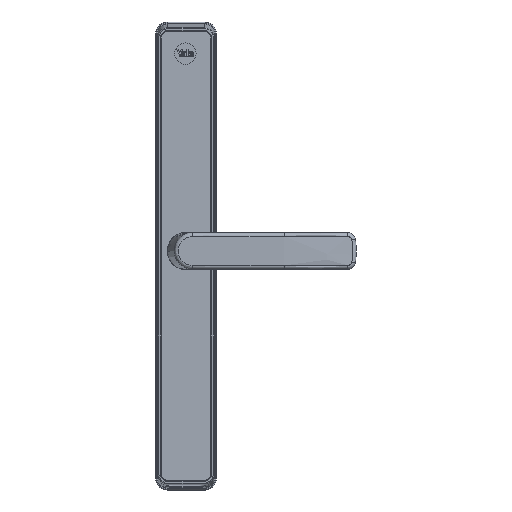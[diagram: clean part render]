
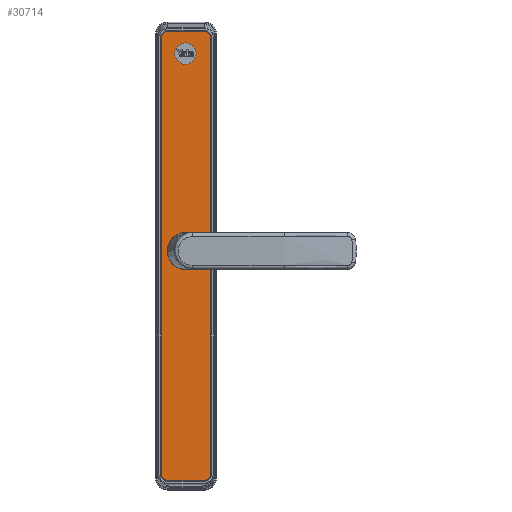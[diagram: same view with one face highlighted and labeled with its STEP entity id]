
A CAD part, top view. The second image highlights one B-rep face of the part: STEP entity #30714.
In plain terms, the highlighted planar face has unit normal (0, 0, 1).
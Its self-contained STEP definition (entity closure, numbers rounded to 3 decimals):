
#946 = EDGE_CURVE ( 'NONE', #20854, #52695, #42555, .T. ) ;
#1744 = DIRECTION ( 'NONE',  ( 0., 0., 1. ) ) ;
#2049 = VERTEX_POINT ( 'NONE', #2732 ) ;
#2522 = AXIS2_PLACEMENT_3D ( 'NONE', #57378, #15472, #98074 ) ;
#2635 = DIRECTION ( 'NONE',  ( -1., 0., 0. ) ) ;
#2732 = CARTESIAN_POINT ( 'NONE',  ( -6.872, 120.999, 0. ) ) ;
#3849 = CARTESIAN_POINT ( 'NONE',  ( -15.1, 130.5, 0. ) ) ;
#7135 = EDGE_CURVE ( 'NONE', #18843, #20854, #107730, .T. ) ;
#7547 = EDGE_LOOP ( 'NONE', ( #119885, #43379 ) ) ;
#9781 = CIRCLE ( 'NONE', #116670, 6.5 ) ;
#13020 = EDGE_CURVE ( 'NONE', #44289, #18843, #54790, .T. ) ;
#13402 = DIRECTION ( 'NONE',  ( -1., 0., 0. ) ) ;
#13422 = AXIS2_PLACEMENT_3D ( 'NONE', #81331, #21032, #120776 ) ;
#15363 = DIRECTION ( 'NONE',  ( 0., 0., 1. ) ) ;
#15472 = DIRECTION ( 'NONE',  ( 0., 0., 1. ) ) ;
#16186 = CARTESIAN_POINT ( 'NONE',  ( 0., 0., 0. ) ) ;
#18259 = CIRCLE ( 'NONE', #85263, 4. ) ;
#18843 = VERTEX_POINT ( 'NONE', #66316 ) ;
#19118 = CARTESIAN_POINT ( 'NONE',  ( -0.372, 120.999, 0. ) ) ;
#19215 = DIRECTION ( 'NONE',  ( 0., 0., 1. ) ) ;
#20854 = VERTEX_POINT ( 'NONE', #103736 ) ;
#21032 = DIRECTION ( 'NONE',  ( 0., 0., 1. ) ) ;
#22229 = AXIS2_PLACEMENT_3D ( 'NONE', #16186, #116559, #56158 ) ;
#22760 = VECTOR ( 'NONE', #51599, 1000. ) ;
#24644 = CARTESIAN_POINT ( 'NONE',  ( 11.1, 134.5, 0. ) ) ;
#24675 = DIRECTION ( 'NONE',  ( -1., 0., 0. ) ) ;
#29217 = EDGE_LOOP ( 'NONE', ( #93827, #39236, #114328, #82794, #43781, #128649, #33826, #58793 ) ) ;
#30714 = ADVANCED_FACE ( 'NONE', ( #107259, #65282, #125744 ), #75755, .T. ) ;
#31379 = EDGE_CURVE ( 'NONE', #111270, #124733, #75630, .T. ) ;
#32737 = DIRECTION ( 'NONE',  ( 0., -1., 0. ) ) ;
#33807 = EDGE_CURVE ( 'NONE', #82691, #44289, #18259, .T. ) ;
#33826 = ORIENTED_EDGE ( 'NONE', *, *, #113496, .T. ) ;
#35892 = EDGE_CURVE ( 'NONE', #2049, #111672, #85096, .T. ) ;
#39236 = ORIENTED_EDGE ( 'NONE', *, *, #13020, .T. ) ;
#42555 = LINE ( 'NONE', #3849, #84462 ) ;
#43379 = ORIENTED_EDGE ( 'NONE', *, *, #31379, .F. ) ;
#43781 = ORIENTED_EDGE ( 'NONE', *, *, #55845, .T. ) ;
#43947 = DIRECTION ( 'NONE',  ( 0., 0., 1. ) ) ;
#44289 = VERTEX_POINT ( 'NONE', #24644 ) ;
#44511 = VERTEX_POINT ( 'NONE', #62319 ) ;
#49314 = DIRECTION ( 'NONE',  ( 0., 0., 1. ) ) ;
#51599 = DIRECTION ( 'NONE',  ( 0., 1., 0. ) ) ;
#52695 = VERTEX_POINT ( 'NONE', #89533 ) ;
#52864 = EDGE_CURVE ( 'NONE', #88832, #107219, #85519, .T. ) ;
#54299 = AXIS2_PLACEMENT_3D ( 'NONE', #115443, #43947, #2635 ) ;
#54790 = LINE ( 'NONE', #84947, #66325 ) ;
#55548 = EDGE_CURVE ( 'NONE', #44511, #82691, #120554, .T. ) ;
#55845 = EDGE_CURVE ( 'NONE', #52695, #88832, #98330, .T. ) ;
#56158 = DIRECTION ( 'NONE',  ( 1., 0., 0. ) ) ;
#57378 = CARTESIAN_POINT ( 'NONE',  ( 11.1, 130.5, 0. ) ) ;
#58793 = ORIENTED_EDGE ( 'NONE', *, *, #55548, .T. ) ;
#62319 = CARTESIAN_POINT ( 'NONE',  ( 15.1, -136.5, 0. ) ) ;
#63309 = CARTESIAN_POINT ( 'NONE',  ( -0.372, 120.999, 0. ) ) ;
#65282 = FACE_BOUND ( 'NONE', #7547, .T. ) ;
#65397 = CARTESIAN_POINT ( 'NONE',  ( 11.1, -140.5, 0. ) ) ;
#66316 = CARTESIAN_POINT ( 'NONE',  ( -11.1, 134.5, 0. ) ) ;
#66325 = VECTOR ( 'NONE', #24675, 1000. ) ;
#67743 = CARTESIAN_POINT ( 'NONE',  ( 11.1, 130.5, 0. ) ) ;
#68343 = CARTESIAN_POINT ( 'NONE',  ( 0., 0., 0. ) ) ;
#68750 = ORIENTED_EDGE ( 'NONE', *, *, #35892, .F. ) ;
#69623 = EDGE_CURVE ( 'NONE', #124733, #111270, #124936, .T. ) ;
#74592 = AXIS2_PLACEMENT_3D ( 'NONE', #63309, #1744, #103351 ) ;
#75014 = CARTESIAN_POINT ( 'NONE',  ( -11.1, -140.5, 0. ) ) ;
#75544 = AXIS2_PLACEMENT_3D ( 'NONE', #68343, #49314, #90597 ) ;
#75630 = CIRCLE ( 'NONE', #75544, 11.5 ) ;
#75755 = PLANE ( 'NONE',  #2522 ) ;
#77421 = CIRCLE ( 'NONE', #54299, 4. ) ;
#77604 = DIRECTION ( 'NONE',  ( 1., 0., 0. ) ) ;
#81331 = CARTESIAN_POINT ( 'NONE',  ( -11.1, 130.5, 0. ) ) ;
#82082 = EDGE_CURVE ( 'NONE', #111672, #2049, #9781, .T. ) ;
#82691 = VERTEX_POINT ( 'NONE', #125848 ) ;
#82794 = ORIENTED_EDGE ( 'NONE', *, *, #946, .T. ) ;
#84462 = VECTOR ( 'NONE', #32737, 1000. ) ;
#84947 = CARTESIAN_POINT ( 'NONE',  ( 11.1, 134.5, 0. ) ) ;
#85096 = CIRCLE ( 'NONE', #74592, 6.5 ) ;
#85263 = AXIS2_PLACEMENT_3D ( 'NONE', #67743, #19215, #126911 ) ;
#85519 = LINE ( 'NONE', #75014, #89609 ) ;
#88832 = VERTEX_POINT ( 'NONE', #100599 ) ;
#89533 = CARTESIAN_POINT ( 'NONE',  ( -15.1, -136.5, 0. ) ) ;
#89609 = VECTOR ( 'NONE', #77604, 1000. ) ;
#90597 = DIRECTION ( 'NONE',  ( 1., 0., 0. ) ) ;
#92097 = CARTESIAN_POINT ( 'NONE',  ( -11.1, -136.5, 0. ) ) ;
#93103 = ORIENTED_EDGE ( 'NONE', *, *, #82082, .F. ) ;
#93544 = CARTESIAN_POINT ( 'NONE',  ( 15.1, -136.5, 0. ) ) ;
#93827 = ORIENTED_EDGE ( 'NONE', *, *, #33807, .T. ) ;
#98074 = DIRECTION ( 'NONE',  ( 1., 0., 0. ) ) ;
#98330 = CIRCLE ( 'NONE', #106668, 4. ) ;
#98477 = DIRECTION ( 'NONE',  ( 1., 0., 0. ) ) ;
#99742 = DIRECTION ( 'NONE',  ( 0., 0., 1. ) ) ;
#100599 = CARTESIAN_POINT ( 'NONE',  ( -11.1, -140.5, 0. ) ) ;
#103351 = DIRECTION ( 'NONE',  ( 1., 0., 0. ) ) ;
#103736 = CARTESIAN_POINT ( 'NONE',  ( -15.1, 130.5, 0. ) ) ;
#106397 = CARTESIAN_POINT ( 'NONE',  ( 11.5, 0., 0. ) ) ;
#106668 = AXIS2_PLACEMENT_3D ( 'NONE', #92097, #15363, #13402 ) ;
#107219 = VERTEX_POINT ( 'NONE', #65397 ) ;
#107259 = FACE_BOUND ( 'NONE', #120960, .T. ) ;
#107730 = CIRCLE ( 'NONE', #13422, 4. ) ;
#111270 = VERTEX_POINT ( 'NONE', #127178 ) ;
#111672 = VERTEX_POINT ( 'NONE', #112408 ) ;
#112408 = CARTESIAN_POINT ( 'NONE',  ( 6.128, 120.999, 0. ) ) ;
#113496 = EDGE_CURVE ( 'NONE', #107219, #44511, #77421, .T. ) ;
#114328 = ORIENTED_EDGE ( 'NONE', *, *, #7135, .T. ) ;
#115443 = CARTESIAN_POINT ( 'NONE',  ( 11.1, -136.5, 0. ) ) ;
#116559 = DIRECTION ( 'NONE',  ( 0., 0., 1. ) ) ;
#116670 = AXIS2_PLACEMENT_3D ( 'NONE', #19118, #99742, #98477 ) ;
#119885 = ORIENTED_EDGE ( 'NONE', *, *, #69623, .F. ) ;
#120554 = LINE ( 'NONE', #93544, #22760 ) ;
#120776 = DIRECTION ( 'NONE',  ( -1., 0., 0. ) ) ;
#120960 = EDGE_LOOP ( 'NONE', ( #68750, #93103 ) ) ;
#124733 = VERTEX_POINT ( 'NONE', #106397 ) ;
#124936 = CIRCLE ( 'NONE', #22229, 11.5 ) ;
#125744 = FACE_OUTER_BOUND ( 'NONE', #29217, .T. ) ;
#125848 = CARTESIAN_POINT ( 'NONE',  ( 15.1, 130.5, 0. ) ) ;
#126911 = DIRECTION ( 'NONE',  ( 1., 0., 0. ) ) ;
#127178 = CARTESIAN_POINT ( 'NONE',  ( -11.5, 0., 0. ) ) ;
#128649 = ORIENTED_EDGE ( 'NONE', *, *, #52864, .T. ) ;
